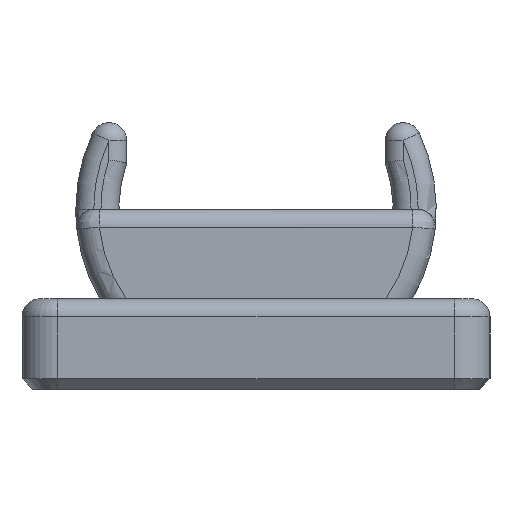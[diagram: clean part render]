
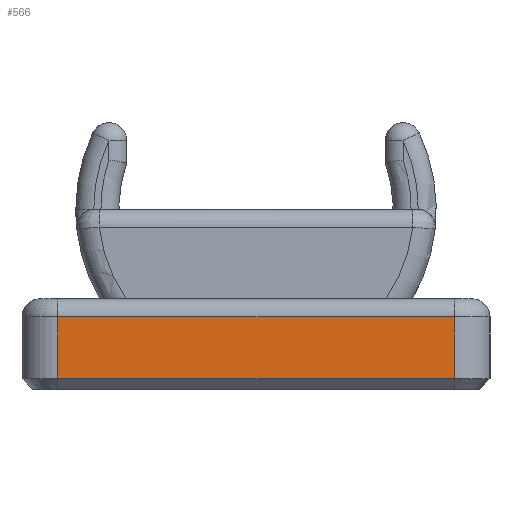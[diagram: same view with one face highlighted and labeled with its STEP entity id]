
A CAD part, left-side view. The second image highlights one B-rep face of the part: STEP entity #566.
In plain terms, the highlighted planar face has unit normal (-1, 0, 0).
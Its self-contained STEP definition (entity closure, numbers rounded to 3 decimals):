
#44 = CYLINDRICAL_SURFACE('',#45,2.);
#45 = AXIS2_PLACEMENT_3D('',#46,#47,#48);
#46 = CARTESIAN_POINT('',(-7.67,-11.05,0.));
#47 = DIRECTION('',(0.,0.,-1.));
#48 = DIRECTION('',(-1.,0.,0.));
#143 = VERTEX_POINT('',#144);
#144 = CARTESIAN_POINT('',(-9.67,-11.05,4.05));
#171 = EDGE_CURVE('',#172,#143,#174,.T.);
#172 = VERTEX_POINT('',#173);
#173 = CARTESIAN_POINT('',(-9.67,-11.05,0.6));
#174 = SURFACE_CURVE('',#175,(#179,#186),.PCURVE_S1.);
#175 = LINE('',#176,#177);
#176 = CARTESIAN_POINT('',(-9.67,-11.05,0.));
#177 = VECTOR('',#178,1.);
#178 = DIRECTION('',(0.,0.,1.));
#179 = PCURVE('',#44,#180);
#180 = DEFINITIONAL_REPRESENTATION('',(#181),#185);
#181 = LINE('',#182,#183);
#182 = CARTESIAN_POINT('',(6.283,0.));
#183 = VECTOR('',#184,1.);
#184 = DIRECTION('',(0.,-1.));
#185 = ( GEOMETRIC_REPRESENTATION_CONTEXT(2) 
PARAMETRIC_REPRESENTATION_CONTEXT() REPRESENTATION_CONTEXT('2D SPACE',''
  ) );
#186 = PCURVE('',#187,#192);
#187 = PLANE('',#188);
#188 = AXIS2_PLACEMENT_3D('',#189,#190,#191);
#189 = CARTESIAN_POINT('',(-9.67,11.05,0.));
#190 = DIRECTION('',(1.,0.,-0.));
#191 = DIRECTION('',(0.,-1.,0.));
#192 = DEFINITIONAL_REPRESENTATION('',(#193),#197);
#193 = LINE('',#194,#195);
#194 = CARTESIAN_POINT('',(22.1,0.));
#195 = VECTOR('',#196,1.);
#196 = DIRECTION('',(0.,-1.));
#197 = ( GEOMETRIC_REPRESENTATION_CONTEXT(2) 
PARAMETRIC_REPRESENTATION_CONTEXT() REPRESENTATION_CONTEXT('2D SPACE',''
  ) );
#478 = PLANE('',#479);
#479 = AXIS2_PLACEMENT_3D('',#480,#481,#482);
#480 = CARTESIAN_POINT('',(-9.37,11.05,0.3));
#481 = DIRECTION('',(-0.707,0.,-0.707));
#482 = DIRECTION('',(-0.,1.,0.));
#532 = CYLINDRICAL_SURFACE('',#533,1.);
#533 = AXIS2_PLACEMENT_3D('',#534,#535,#536);
#534 = CARTESIAN_POINT('',(-8.67,11.05,4.05));
#535 = DIRECTION('',(0.,-1.,0.));
#536 = DIRECTION('',(-1.,-0.,0.));
#566 = ADVANCED_FACE('',(#567),#187,.F.);
#567 = FACE_BOUND('',#568,.F.);
#568 = EDGE_LOOP('',(#569,#599,#620,#621));
#569 = ORIENTED_EDGE('',*,*,#570,.T.);
#570 = EDGE_CURVE('',#571,#573,#575,.T.);
#571 = VERTEX_POINT('',#572);
#572 = CARTESIAN_POINT('',(-9.67,11.05,0.6));
#573 = VERTEX_POINT('',#574);
#574 = CARTESIAN_POINT('',(-9.67,11.05,4.05));
#575 = SURFACE_CURVE('',#576,(#580,#587),.PCURVE_S1.);
#576 = LINE('',#577,#578);
#577 = CARTESIAN_POINT('',(-9.67,11.05,0.));
#578 = VECTOR('',#579,1.);
#579 = DIRECTION('',(0.,0.,1.));
#580 = PCURVE('',#187,#581);
#581 = DEFINITIONAL_REPRESENTATION('',(#582),#586);
#582 = LINE('',#583,#584);
#583 = CARTESIAN_POINT('',(0.,0.));
#584 = VECTOR('',#585,1.);
#585 = DIRECTION('',(0.,-1.));
#586 = ( GEOMETRIC_REPRESENTATION_CONTEXT(2) 
PARAMETRIC_REPRESENTATION_CONTEXT() REPRESENTATION_CONTEXT('2D SPACE',''
  ) );
#587 = PCURVE('',#588,#593);
#588 = CYLINDRICAL_SURFACE('',#589,2.);
#589 = AXIS2_PLACEMENT_3D('',#590,#591,#592);
#590 = CARTESIAN_POINT('',(-7.67,11.05,0.));
#591 = DIRECTION('',(0.,0.,-1.));
#592 = DIRECTION('',(-1.,0.,0.));
#593 = DEFINITIONAL_REPRESENTATION('',(#594),#598);
#594 = LINE('',#595,#596);
#595 = CARTESIAN_POINT('',(0.,0.));
#596 = VECTOR('',#597,1.);
#597 = DIRECTION('',(0.,-1.));
#598 = ( GEOMETRIC_REPRESENTATION_CONTEXT(2) 
PARAMETRIC_REPRESENTATION_CONTEXT() REPRESENTATION_CONTEXT('2D SPACE',''
  ) );
#599 = ORIENTED_EDGE('',*,*,#600,.T.);
#600 = EDGE_CURVE('',#573,#143,#601,.T.);
#601 = SURFACE_CURVE('',#602,(#606,#613),.PCURVE_S1.);
#602 = LINE('',#603,#604);
#603 = CARTESIAN_POINT('',(-9.67,11.05,4.05));
#604 = VECTOR('',#605,1.);
#605 = DIRECTION('',(0.,-1.,0.));
#606 = PCURVE('',#187,#607);
#607 = DEFINITIONAL_REPRESENTATION('',(#608),#612);
#608 = LINE('',#609,#610);
#609 = CARTESIAN_POINT('',(0.,-4.05));
#610 = VECTOR('',#611,1.);
#611 = DIRECTION('',(1.,0.));
#612 = ( GEOMETRIC_REPRESENTATION_CONTEXT(2) 
PARAMETRIC_REPRESENTATION_CONTEXT() REPRESENTATION_CONTEXT('2D SPACE',''
  ) );
#613 = PCURVE('',#532,#614);
#614 = DEFINITIONAL_REPRESENTATION('',(#615),#619);
#615 = LINE('',#616,#617);
#616 = CARTESIAN_POINT('',(-0.,0.));
#617 = VECTOR('',#618,1.);
#618 = DIRECTION('',(-0.,1.));
#619 = ( GEOMETRIC_REPRESENTATION_CONTEXT(2) 
PARAMETRIC_REPRESENTATION_CONTEXT() REPRESENTATION_CONTEXT('2D SPACE',''
  ) );
#620 = ORIENTED_EDGE('',*,*,#171,.F.);
#621 = ORIENTED_EDGE('',*,*,#622,.F.);
#622 = EDGE_CURVE('',#571,#172,#623,.T.);
#623 = SURFACE_CURVE('',#624,(#628,#635),.PCURVE_S1.);
#624 = LINE('',#625,#626);
#625 = CARTESIAN_POINT('',(-9.67,11.05,0.6));
#626 = VECTOR('',#627,1.);
#627 = DIRECTION('',(0.,-1.,0.));
#628 = PCURVE('',#187,#629);
#629 = DEFINITIONAL_REPRESENTATION('',(#630),#634);
#630 = LINE('',#631,#632);
#631 = CARTESIAN_POINT('',(0.,-0.6));
#632 = VECTOR('',#633,1.);
#633 = DIRECTION('',(1.,0.));
#634 = ( GEOMETRIC_REPRESENTATION_CONTEXT(2) 
PARAMETRIC_REPRESENTATION_CONTEXT() REPRESENTATION_CONTEXT('2D SPACE',''
  ) );
#635 = PCURVE('',#478,#636);
#636 = DEFINITIONAL_REPRESENTATION('',(#637),#641);
#637 = LINE('',#638,#639);
#638 = CARTESIAN_POINT('',(-0.,-0.424));
#639 = VECTOR('',#640,1.);
#640 = DIRECTION('',(-1.,0.));
#641 = ( GEOMETRIC_REPRESENTATION_CONTEXT(2) 
PARAMETRIC_REPRESENTATION_CONTEXT() REPRESENTATION_CONTEXT('2D SPACE',''
  ) );
